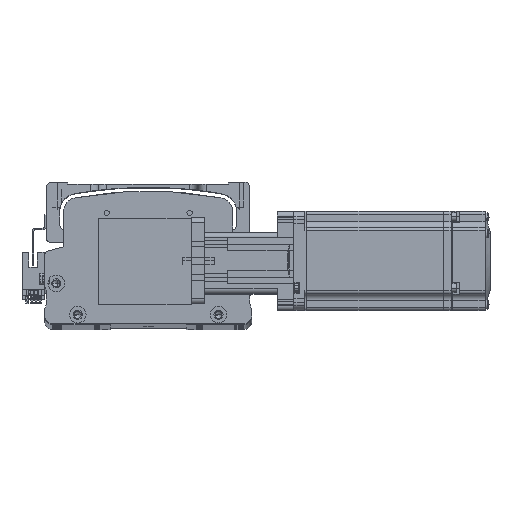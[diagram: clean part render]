
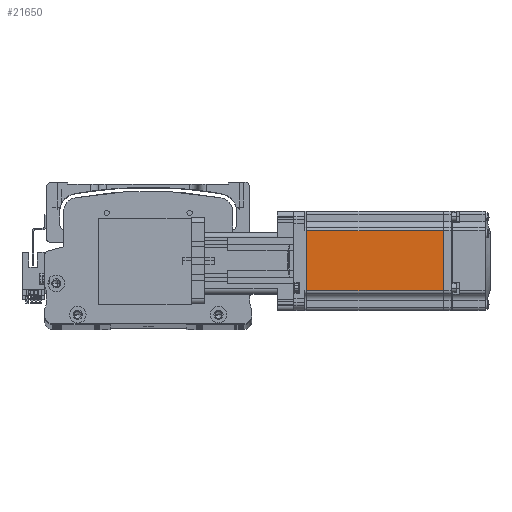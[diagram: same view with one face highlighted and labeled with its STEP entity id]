
A CAD part, top view. The second image highlights one B-rep face of the part: STEP entity #21650.
In plain terms, the highlighted planar face has unit normal (0, 0, 1) as drawn and (0, -1, 0) by its records, which use the part's own axes.
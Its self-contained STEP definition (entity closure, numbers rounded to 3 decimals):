
#3649 = VERTEX_POINT ( 'NONE', #6300 ) ;
#6300 = CARTESIAN_POINT ( 'NONE',  ( -90.45, -30., 18. ) ) ;
#7148 = LINE ( 'NONE', #54918, #17644 ) ;
#8732 = ORIENTED_EDGE ( 'NONE', *, *, #19795, .F. ) ;
#14451 = CARTESIAN_POINT ( 'NONE',  ( -6.5, -30., -18. ) ) ;
#15558 = ORIENTED_EDGE ( 'NONE', *, *, #57771, .T. ) ;
#15676 = EDGE_CURVE ( 'NONE', #23278, #60473, #56332, .T. ) ;
#17644 = VECTOR ( 'NONE', #64511, 1000. ) ;
#18979 = CARTESIAN_POINT ( 'NONE',  ( -6.5, -30., 18. ) ) ;
#19795 = EDGE_CURVE ( 'NONE', #36017, #23278, #7148, .T. ) ;
#21650 = ADVANCED_FACE ( 'NONE', ( #25374 ), #65703, .T. ) ;
#22538 = ORIENTED_EDGE ( 'NONE', *, *, #15676, .F. ) ;
#23278 = VERTEX_POINT ( 'NONE', #25716 ) ;
#24212 = DIRECTION ( 'NONE',  ( -1., 0., 0. ) ) ;
#24831 = CARTESIAN_POINT ( 'NONE',  ( -6.5, -30., -25. ) ) ;
#24835 = LINE ( 'NONE', #18979, #62625 ) ;
#25275 = ORIENTED_EDGE ( 'NONE', *, *, #35238, .T. ) ;
#25374 = FACE_OUTER_BOUND ( 'NONE', #57685, .T. ) ;
#25716 = CARTESIAN_POINT ( 'NONE',  ( -7.75, -30., -18. ) ) ;
#30014 = DIRECTION ( 'NONE',  ( -1., 0., 0. ) ) ;
#30016 = DIRECTION ( 'NONE',  ( 0., 0., -1. ) ) ;
#35238 = EDGE_CURVE ( 'NONE', #36017, #3649, #24835, .T. ) ;
#36017 = VERTEX_POINT ( 'NONE', #41698 ) ;
#36249 = VECTOR ( 'NONE', #61089, 1000. ) ;
#41698 = CARTESIAN_POINT ( 'NONE',  ( -7.75, -30., 18. ) ) ;
#45212 = AXIS2_PLACEMENT_3D ( 'NONE', #24831, #60758, #30016 ) ;
#54764 = VECTOR ( 'NONE', #30014, 1000. ) ;
#54918 = CARTESIAN_POINT ( 'NONE',  ( -7.75, -30., 0. ) ) ;
#56011 = CARTESIAN_POINT ( 'NONE',  ( -90.45, -30., 0. ) ) ;
#56332 = LINE ( 'NONE', #14451, #54764 ) ;
#57685 = EDGE_LOOP ( 'NONE', ( #8732, #25275, #15558, #22538 ) ) ;
#57771 = EDGE_CURVE ( 'NONE', #3649, #60473, #63594, .T. ) ;
#59629 = CARTESIAN_POINT ( 'NONE',  ( -90.45, -30., -18. ) ) ;
#60473 = VERTEX_POINT ( 'NONE', #59629 ) ;
#60758 = DIRECTION ( 'NONE',  ( 0., -1., 0. ) ) ;
#61089 = DIRECTION ( 'NONE',  ( 0., 0., -1. ) ) ;
#62625 = VECTOR ( 'NONE', #24212, 1000. ) ;
#63594 = LINE ( 'NONE', #56011, #36249 ) ;
#64511 = DIRECTION ( 'NONE',  ( 0., 0., -1. ) ) ;
#65703 = PLANE ( 'NONE',  #45212 ) ;
